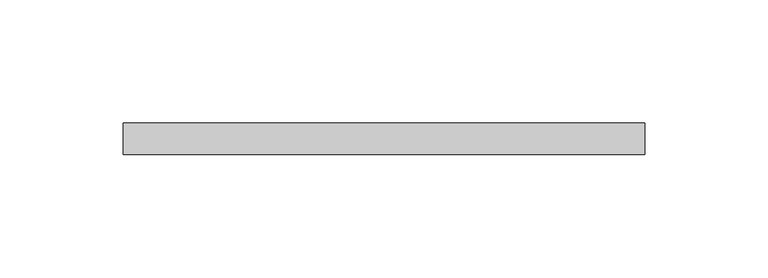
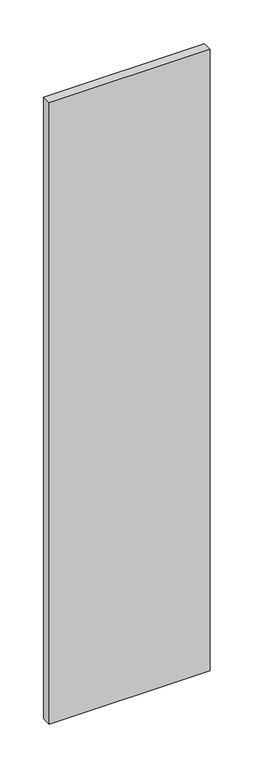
"""IFC4 building model written with IfcOpenShell, lengths in millimetres: proxy geometry, LIVERS_ICN - Glass Panel : LIVERS_ICN - Glass Panel."""

import ifcopenshell
import ifcopenshell.guid

model = None  # the IFC model being written
_history = None  # IfcOwnerHistory: only IFC2X3 demands one
_inside = {}  # id of a spatial element -> (the spatial element, [elements in it])
_under = {}  # id of a project, library or spatial element -> (it, [spatial elements below it])
_declared = {}  # id of a project -> (the project, [libraries it declares])
_typed = {}  # id of a type object -> (the type object, [elements of that type])
_made_of = {}  # id of a material, layer set ... -> (it, [elements and type objects made of it])


def new_model(schema):
    """Start an empty IFC model of exactly this schema.

    Asked for "IFC4X3", IfcOpenShell would pick the latest addendum, in which some entities
    have other attributes; the version numbers below select the first issue.
    IFC2X3 requires an IfcOwnerHistory on every rooted entity: one is made here for all.
    """
    global model, _history
    if schema == "IFC4X3":
        model = ifcopenshell.file(schema_version=(4, 3, 0, 0))
    else:
        model = ifcopenshell.file(schema=schema)
    _inside.clear()
    _under.clear()
    _declared.clear()
    _typed.clear()
    _made_of.clear()
    _history = None
    if model.schema == "IFC2X3":
        org = make("IfcOrganization", Name="unknown")
        user = make(
            "IfcPersonAndOrganization",
            ThePerson=make("IfcPerson", FamilyName="unknown"),
            TheOrganization=org,
        )
        app = make(
            "IfcApplication",
            ApplicationDeveloper=org,
            Version="unknown",
            ApplicationFullName="unknown",
            ApplicationIdentifier="unknown",
        )
        _history = make(
            "IfcOwnerHistory",
            OwningUser=user,
            OwningApplication=app,
            ChangeAction="ADDED",
            CreationDate=0,
        )
    return model


def make(cls, **values):
    """One entity of the class cls with the attributes given. An attribute that is None is left unset."""
    return model.create_entity(
        cls, **{name: value for name, value in values.items() if value is not None}
    )


def rooted(cls, **values):
    """An entity with a GlobalId (a new one), such as an element, a storey or a relation."""
    return make(cls, GlobalId=ifcopenshell.guid.new(), OwnerHistory=_history, **values)


def si_unit(unit_type, name, prefix=None):
    """IfcSIUnit, for example si_unit("LENGTHUNIT", "METRE", prefix="MILLI")."""
    return make("IfcSIUnit", UnitType=unit_type, Prefix=prefix, Name=name)


def assignment(units):
    """IfcUnitAssignment: the units of a project."""
    return None if units is None else make("IfcUnitAssignment", Units=units)


def point(xyz):
    """IfcCartesianPoint."""
    return None if xyz is None else make("IfcCartesianPoint", Coordinates=xyz)


def direction(xyz):
    """IfcDirection."""
    return None if xyz is None else make("IfcDirection", DirectionRatios=xyz)


def frame(location, z_axis=None, x_axis=None):
    """IfcAxis2Placement3D, a coordinate frame: its origin and axes. An axis left out is left unset."""
    return make(
        "IfcAxis2Placement3D",
        Location=point(location),
        Axis=direction(z_axis),
        RefDirection=direction(x_axis),
    )


def origin():
    """The frame at (0, 0, 0) with its axes left unset."""
    return frame((0.0, 0.0, 0.0))


def place(relative_to, where):
    """IfcLocalPlacement: puts the frame where relative to a parent placement (None: the world)."""
    return make(
        "IfcLocalPlacement", PlacementRelTo=relative_to, RelativePlacement=where
    )


def context(
    kind, dimensions, precision=None, world=None, true_north=None, identifier=None
):
    """IfcGeometricRepresentationContext, for example the 3D "Model" context."""
    return make(
        "IfcGeometricRepresentationContext",
        ContextIdentifier=identifier,
        ContextType=kind,
        CoordinateSpaceDimension=dimensions,
        Precision=precision,
        WorldCoordinateSystem=world,
        TrueNorth=true_north,
    )


def project(units=None, contexts=None):
    """IfcProject with its units and contexts."""
    return rooted(
        "IfcProject",
        Name="project",
        RepresentationContexts=contexts,
        UnitsInContext=assignment(units),
    )


def spatial(cls, under=None, at=None, **own):
    """A site, building, storey or space (cls), placed at a placement, below another one or the project."""
    s = rooted(cls, ObjectPlacement=at, **own)
    if under is not None:
        _under.setdefault(under.id(), (under, []))[1].append(s)
    return s


def polyline(points):
    """IfcPolyline through the points."""
    return make("IfcPolyline", Points=[point(p) for p in points])


def outline(outer, holes=None, kind="AREA"):
    """IfcArbitraryClosedProfileDef: a profile drawn as a closed curve; with holes, ...WithVoids."""
    if holes is None:
        return make("IfcArbitraryClosedProfileDef", ProfileType=kind, OuterCurve=outer)
    return make(
        "IfcArbitraryProfileDefWithVoids",
        ProfileType=kind,
        OuterCurve=outer,
        InnerCurves=holes,
    )


def extrude(swept, where, along, depth):
    """IfcExtrudedAreaSolid: the profile swept, set in the frame where, extruded along a direction by depth."""
    return make(
        "IfcExtrudedAreaSolid",
        SweptArea=swept,
        Position=where,
        ExtrudedDirection=direction(along),
        Depth=depth,
    )


def shape(context_of_items, identifier, shape_type, items):
    """IfcShapeRepresentation: the items that make up one representation, for example the "Body"."""
    return make(
        "IfcShapeRepresentation",
        ContextOfItems=context_of_items,
        RepresentationIdentifier=identifier,
        RepresentationType=shape_type,
        Items=items,
    )


def source(mapping_origin, context_of_items, identifier, shape_type, items):
    """IfcRepresentationMap: a shape defined once, which mapped items show again and again."""
    return make(
        "IfcRepresentationMap",
        MappingOrigin=mapping_origin,
        MappedRepresentation=shape(context_of_items, identifier, shape_type, items),
    )


def transform(
    local_origin,
    x_axis=None,
    y_axis=None,
    z_axis=None,
    scale=None,
    scale2=None,
    scale3=None,
    uniform=True,
):
    """IfcCartesianTransformationOperator3D, or its non-uniform kind. x_axis, y_axis, z_axis: its Axis1, 2, 3."""
    if uniform:
        return make(
            "IfcCartesianTransformationOperator3D",
            Axis1=direction(x_axis),
            Axis2=direction(y_axis),
            LocalOrigin=point(local_origin),
            Scale=scale,
            Axis3=direction(z_axis),
        )
    return make(
        "IfcCartesianTransformationOperator3DnonUniform",
        Axis1=direction(x_axis),
        Axis2=direction(y_axis),
        LocalOrigin=point(local_origin),
        Scale=scale,
        Axis3=direction(z_axis),
        Scale2=scale2,
        Scale3=scale3,
    )


def mapped(mapping_source, mapping_target):
    """IfcMappedItem: shows the shape of a source again, moved by a transform."""
    return make(
        "IfcMappedItem", MappingSource=mapping_source, MappingTarget=mapping_target
    )


def made_of(thing, what):
    """Note that an element or type object is made of a material, layer set ...; save() writes the relation."""
    if what is not None:
        _made_of.setdefault(what.id(), (what, []))[1].append(thing)
    return thing


def element(
    cls,
    number,
    at=None,
    inside=None,
    cuts=None,
    type_object=None,
    material=None,
    context=None,
    identifier="Body",
    shape_type=None,
    held_by="IfcProductDefinitionShape",
    body=None,
    shapes=None,
    **own,
):
    """One element of the class cls, such as IfcWall. Its Tag is "e" and its number.

    at: its placement. inside: the storey or other place that contains it. cuts: it is an
    opening in that element (IfcRelVoidsElement). A single representation is given by context,
    identifier, shape_type and body (its items); several are given by shapes. held_by: the class
    of the entity that holds the representations. save() writes the other relations.
    """
    e = rooted(cls, Tag="e%d" % number, ObjectPlacement=at, **own)
    if body is not None:
        shapes = [shape(context, identifier, shape_type, body)]
    if shapes is not None:
        e.Representation = make(held_by, Representations=shapes)
    if inside is not None:
        _inside.setdefault(inside.id(), (inside, []))[1].append(e)
    if cuts is not None:
        rooted(
            "IfcRelVoidsElement", RelatingBuildingElement=cuts, RelatedOpeningElement=e
        )
    if type_object is not None:
        _typed.setdefault(type_object.id(), (type_object, []))[1].append(e)
    return made_of(e, material)


def aggregate(whole, parts):
    """IfcRelAggregates: a whole, such as a stair, and the parts it consists of."""
    return rooted("IfcRelAggregates", RelatingObject=whole, RelatedObjects=parts)


def save(model, path):
    """Write the relations noted so far, then the file.

    IfcRelAggregates (storeys below a building ...), IfcRelContainedInSpatialStructure (elements
    in a storey), IfcRelDefinesByType, IfcRelAssociatesMaterial and IfcRelDeclares: one each for
    every whole, place, type object, material and project.
    """
    for whole, parts in _under.values():
        aggregate(whole, parts)
    for where, things in _inside.values():
        rooted(
            "IfcRelContainedInSpatialStructure",
            RelatedElements=things,
            RelatingStructure=where,
        )
    for kind, things in _typed.values():
        rooted("IfcRelDefinesByType", RelatedObjects=things, RelatingType=kind)
    for what, things in _made_of.values():
        rooted("IfcRelAssociatesMaterial", RelatedObjects=things, RelatingMaterial=what)
    for by, libraries in _declared.values():
        rooted("IfcRelDeclares", RelatingContext=by, RelatedDefinitions=libraries)
    model.write(path)


def building_element_proxy_159b8cce(model_context):
    return source(origin(), model_context, "Body", "SweptSolid", [
        extrude(outline(polyline([(743.2812351, 34.1309994), (532.0026343, 34.1309994), (532.0026343, 46.8311957), (743.2812351, 46.8311957), (743.2812351, 34.1309994)])), frame((0.0, 0.0, 114.3), z_axis=(0.0, 0.0, 1.0), x_axis=(1.0, 0.0, 0.0)), (0.0, 0.0, 1.0), 863.6),
    ])


if __name__ == "__main__":
    model = new_model("IFC4")
    model_context = context("Model", 3, world=origin())
    ifc_project = project(units=[si_unit("LENGTHUNIT", "METRE", prefix="MILLI")], contexts=[model_context])
    site = spatial("IfcSite", under=ifc_project)
    building = spatial("IfcBuilding", under=site)
    placement = place(None, origin())
    building_element_proxy_shape = building_element_proxy_159b8cce(model_context)
    element("IfcBuildingElementProxy", 1, Name="LIVERS_ICN - Glass Panel : LIVERS_ICN - Glass Panel", ObjectType="LIVERS_ICN - Glass Panel : LIVERS_ICN - Glass Panel", at=placement, inside=building, context=model_context, shape_type="MappedRepresentation", body=[
        mapped(building_element_proxy_shape, transform((0.0, 0.0, 0.0), x_axis=(1.0, 0.0, 0.0), y_axis=(0.0, 1.0, 0.0), z_axis=(0.0, 0.0, 1.0))),
    ])
    save(model, "model.ifc")
